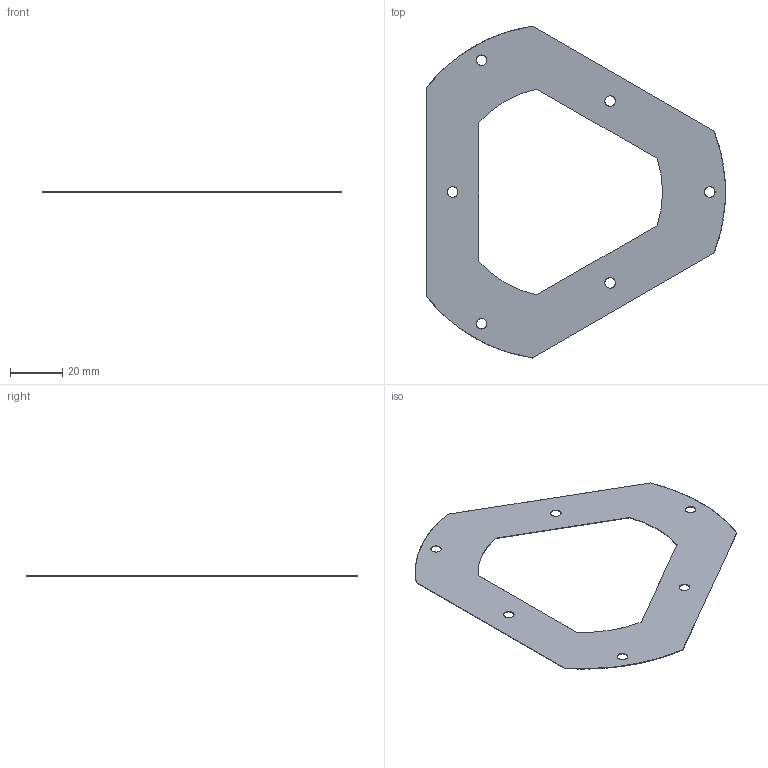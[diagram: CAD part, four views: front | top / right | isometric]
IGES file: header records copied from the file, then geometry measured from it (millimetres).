
Start section: SolidWorks IGES file using analytic representation for surfaces
Bounding box: 114 x 126.55 x 0.2 mm (x, y, z)
Surface area: 13264.5 mm2 (no closed solid volume)
Topology: 0 solids, 0 shells, 26 faces, 564 edges, 564 vertices
Faces by surface type: revolution 18, bspline 8
